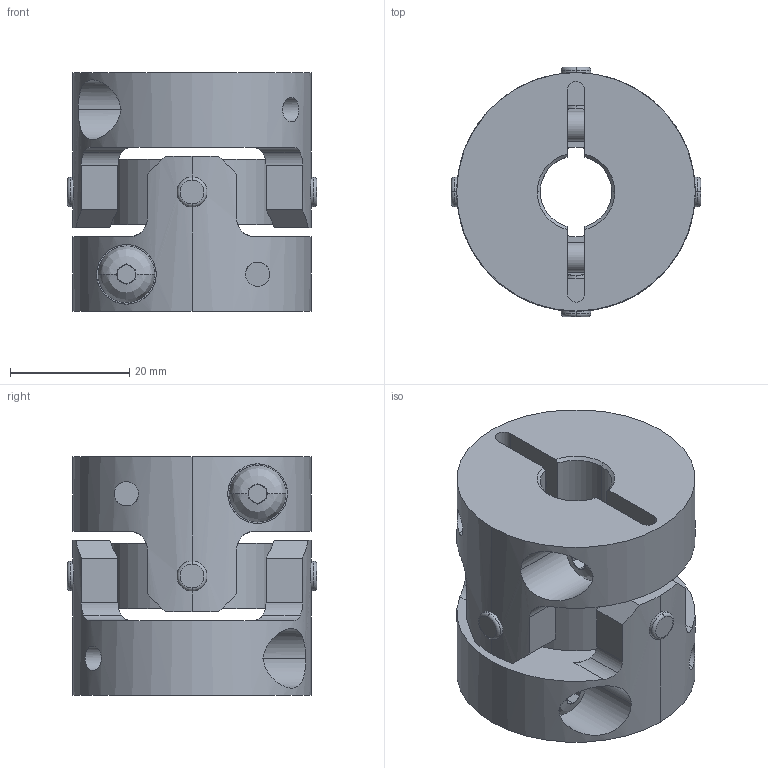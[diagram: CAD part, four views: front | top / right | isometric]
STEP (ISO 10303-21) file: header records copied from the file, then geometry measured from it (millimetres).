
FILE_DESCRIPTION((''),'2;1');
FILE_NAME('UA-40C-12×16.stp','2013-05-22T09:32:37',(''),(''),'AutoCAD STEP 2000i','AutoCAD 2000i',', , ');
FILE_SCHEMA(('CONFIG_CONTROL_DESIGN'));
Length unit declared in the file: millimetre
Products named in the file (6): UA-40C-8×8; 忣兜1; UA-4002-D08-1; BTN-M5; UA-4002-D08; UA40-SEN
Assembly tree (6 placements, depth 3):
  UA-40C-8×8
    忣兜1
    UA-4002-D08-1
      BTN-M5
    UA-4002-D08
      BTN-M5
    UA40-SEN
Bounding box: 41.81 x 41.81 x 40 mm (x, y, z)
Volume: 32994.9 mm3; surface area: 15481.6 mm2
Topology: 1 solids, 1 shells, 250 faces, 646 edges, 408 vertices
Faces by surface type: plane 122, cylinder 96, cone 16, bspline 8, torus 8
Entity records: 9627 total; most frequent: CARTESIAN_POINT 3371, ORIENTED_EDGE 1292, DIRECTION 1288, EDGE_CURVE 646, AXIS2_PLACEMENT_3D 497, VERTEX_POINT 408, VECTOR 294, LINE 294
